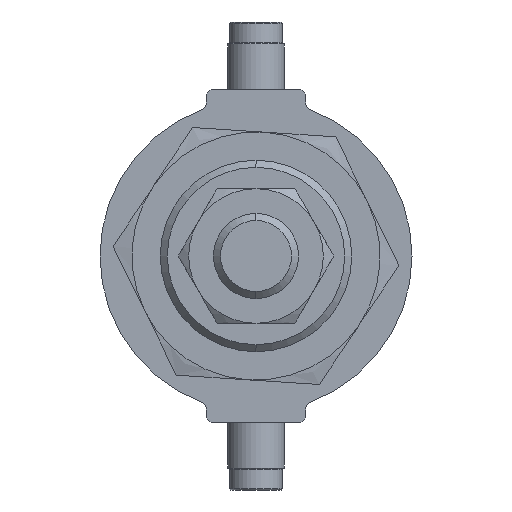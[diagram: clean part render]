
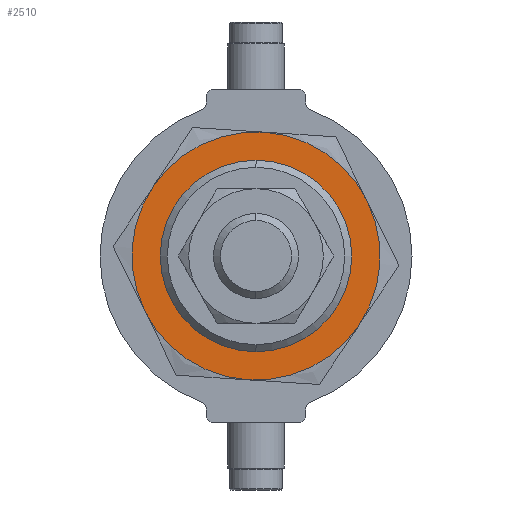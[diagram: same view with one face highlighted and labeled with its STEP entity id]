
A CAD part, left-side view. The second image highlights one B-rep face of the part: STEP entity #2510.
In plain terms, the highlighted planar face has unit normal (-1, 0, 0) as drawn and (0, 0, -1) by its records, which use the part's own axes.
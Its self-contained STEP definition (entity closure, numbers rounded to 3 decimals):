
#59 = EDGE_LOOP ( 'NONE', ( #665, #1648, #4462, #4545, #735, #4306 ) ) ;
#199 = FACE_OUTER_BOUND ( 'NONE', #59, .T. ) ;
#201 = AXIS2_PLACEMENT_3D ( 'NONE', #959, #811, #4476 ) ;
#402 = DIRECTION ( 'NONE',  ( 0., 0., 1. ) ) ;
#435 = CARTESIAN_POINT ( 'NONE',  ( 0., 0., -1.5 ) ) ;
#447 = CIRCLE ( 'NONE', #924, 17.5 ) ;
#665 = ORIENTED_EDGE ( 'NONE', *, *, #4568, .F. ) ;
#735 = ORIENTED_EDGE ( 'NONE', *, *, #2635, .F. ) ;
#784 = DIRECTION ( 'NONE',  ( 1., 0., 0. ) ) ;
#811 = DIRECTION ( 'NONE',  ( 0., 0., 1. ) ) ;
#827 = CARTESIAN_POINT ( 'NONE',  ( 0., 0., -1.5 ) ) ;
#840 = VERTEX_POINT ( 'NONE', #3925 ) ;
#854 = DIRECTION ( 'NONE',  ( 0., 0., 1. ) ) ;
#924 = AXIS2_PLACEMENT_3D ( 'NONE', #2490, #2954, #4139 ) ;
#959 = CARTESIAN_POINT ( 'NONE',  ( 0., 0., -1.5 ) ) ;
#980 = CIRCLE ( 'NONE', #2150, 12.5 ) ;
#985 = ORIENTED_EDGE ( 'NONE', *, *, #1561, .T. ) ;
#1002 = CARTESIAN_POINT ( 'NONE',  ( -8.75, -15.155, -1.5 ) ) ;
#1061 = ORIENTED_EDGE ( 'NONE', *, *, #1398, .T. ) ;
#1093 = AXIS2_PLACEMENT_3D ( 'NONE', #3665, #854, #784 ) ;
#1200 = VERTEX_POINT ( 'NONE', #3792 ) ;
#1265 = VERTEX_POINT ( 'NONE', #3758 ) ;
#1379 = DIRECTION ( 'NONE',  ( 0., 0., 1. ) ) ;
#1398 = EDGE_CURVE ( 'NONE', #1265, #840, #980, .T. ) ;
#1465 = CARTESIAN_POINT ( 'NONE',  ( 0., 0., -1.5 ) ) ;
#1561 = EDGE_CURVE ( 'NONE', #840, #1265, #3916, .T. ) ;
#1572 = VERTEX_POINT ( 'NONE', #4265 ) ;
#1648 = ORIENTED_EDGE ( 'NONE', *, *, #4144, .F. ) ;
#1666 = DIRECTION ( 'NONE',  ( 1., 0., 0. ) ) ;
#1798 = VERTEX_POINT ( 'NONE', #1002 ) ;
#1928 = CARTESIAN_POINT ( 'NONE',  ( 0., 0., -1.5 ) ) ;
#1960 = DIRECTION ( 'NONE',  ( 1., 0., 0. ) ) ;
#2043 = AXIS2_PLACEMENT_3D ( 'NONE', #827, #2855, #3335 ) ;
#2150 = AXIS2_PLACEMENT_3D ( 'NONE', #435, #2815, #1960 ) ;
#2468 = CARTESIAN_POINT ( 'NONE',  ( 8.75, 15.155, -1.5 ) ) ;
#2490 = CARTESIAN_POINT ( 'NONE',  ( 0., 0., -1.5 ) ) ;
#2510 = ADVANCED_FACE ( 'NONE', ( #2717, #199 ), #4115, .F. ) ;
#2519 = VERTEX_POINT ( 'NONE', #2468 ) ;
#2601 = EDGE_CURVE ( 'NONE', #1798, #3693, #3846, .T. ) ;
#2625 = DIRECTION ( 'NONE',  ( 1., 0., 0. ) ) ;
#2632 = AXIS2_PLACEMENT_3D ( 'NONE', #2757, #3461, #3314 ) ;
#2635 = EDGE_CURVE ( 'NONE', #1572, #1200, #4211, .T. ) ;
#2697 = EDGE_LOOP ( 'NONE', ( #985, #1061 ) ) ;
#2717 = FACE_BOUND ( 'NONE', #2697, .T. ) ;
#2757 = CARTESIAN_POINT ( 'NONE',  ( 0., 0., -1.5 ) ) ;
#2815 = DIRECTION ( 'NONE',  ( 0., 0., 1. ) ) ;
#2855 = DIRECTION ( 'NONE',  ( 0., 0., 1. ) ) ;
#2954 = DIRECTION ( 'NONE',  ( 0., 0., 1. ) ) ;
#2993 = CARTESIAN_POINT ( 'NONE',  ( 0., 0., -1.5 ) ) ;
#3215 = DIRECTION ( 'NONE',  ( 1., 0., 0. ) ) ;
#3314 = DIRECTION ( 'NONE',  ( 1., 0., 0. ) ) ;
#3335 = DIRECTION ( 'NONE',  ( 1., 0., 0. ) ) ;
#3461 = DIRECTION ( 'NONE',  ( 0., 0., 1. ) ) ;
#3643 = AXIS2_PLACEMENT_3D ( 'NONE', #1928, #402, #1666 ) ;
#3650 = DIRECTION ( 'NONE',  ( 0., 0., 1. ) ) ;
#3665 = CARTESIAN_POINT ( 'NONE',  ( 0., 0., -1.5 ) ) ;
#3667 = CARTESIAN_POINT ( 'NONE',  ( 17.5, 0., -1.5 ) ) ;
#3693 = VERTEX_POINT ( 'NONE', #4579 ) ;
#3758 = CARTESIAN_POINT ( 'NONE',  ( -12.5, 0., -1.5 ) ) ;
#3792 = CARTESIAN_POINT ( 'NONE',  ( -17.5, 0., -1.5 ) ) ;
#3820 = CIRCLE ( 'NONE', #201, 17.5 ) ;
#3846 = CIRCLE ( 'NONE', #4085, 17.5 ) ;
#3865 = VERTEX_POINT ( 'NONE', #3667 ) ;
#3913 = CIRCLE ( 'NONE', #1093, 17.5 ) ;
#3916 = CIRCLE ( 'NONE', #2043, 12.5 ) ;
#3925 = CARTESIAN_POINT ( 'NONE',  ( 12.5, 0., -1.5 ) ) ;
#3934 = EDGE_CURVE ( 'NONE', #1200, #1798, #447, .T. ) ;
#4085 = AXIS2_PLACEMENT_3D ( 'NONE', #1465, #1379, #2625 ) ;
#4115 = PLANE ( 'NONE',  #4332 ) ;
#4139 = DIRECTION ( 'NONE',  ( 1., 0., 0. ) ) ;
#4144 = EDGE_CURVE ( 'NONE', #3693, #3865, #3913, .T. ) ;
#4211 = CIRCLE ( 'NONE', #3643, 17.5 ) ;
#4265 = CARTESIAN_POINT ( 'NONE',  ( -8.75, 15.155, -1.5 ) ) ;
#4293 = CIRCLE ( 'NONE', #2632, 17.5 ) ;
#4306 = ORIENTED_EDGE ( 'NONE', *, *, #4659, .F. ) ;
#4332 = AXIS2_PLACEMENT_3D ( 'NONE', #2993, #3650, #3215 ) ;
#4462 = ORIENTED_EDGE ( 'NONE', *, *, #2601, .F. ) ;
#4476 = DIRECTION ( 'NONE',  ( 1., 0., 0. ) ) ;
#4545 = ORIENTED_EDGE ( 'NONE', *, *, #3934, .F. ) ;
#4568 = EDGE_CURVE ( 'NONE', #3865, #2519, #3820, .T. ) ;
#4579 = CARTESIAN_POINT ( 'NONE',  ( 8.75, -15.155, -1.5 ) ) ;
#4659 = EDGE_CURVE ( 'NONE', #2519, #1572, #4293, .T. ) ;
